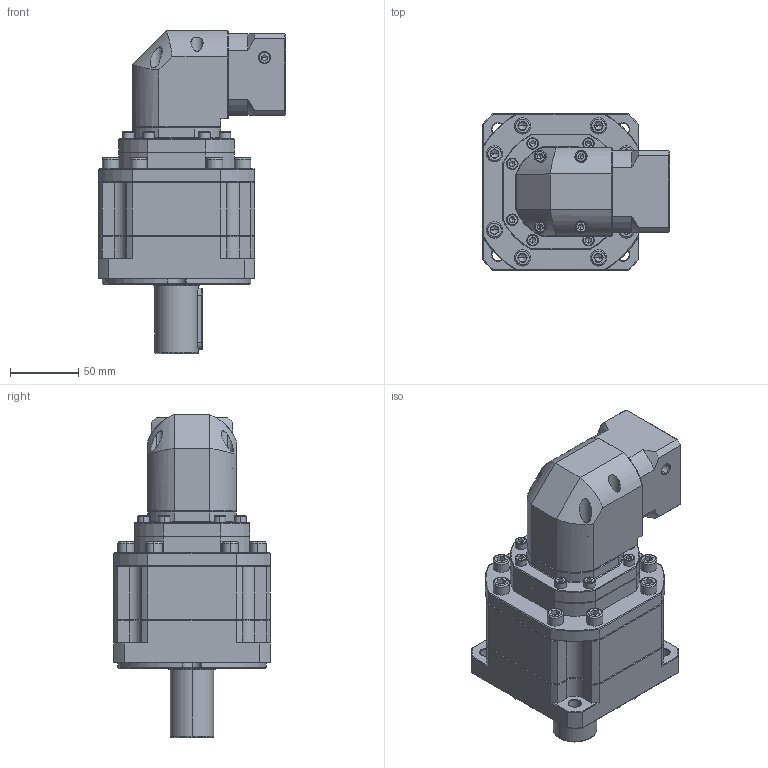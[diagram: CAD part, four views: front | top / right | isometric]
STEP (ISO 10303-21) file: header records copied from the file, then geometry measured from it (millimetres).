
FILE_DESCRIPTION (( 'STEP AP214' ), '1' );
FILE_NAME ('ZBR115A-D32-L3-P2-14-50-70-M5.step', '2023-08-26T14:07:11', ( '' ), ( '' ), 'SwSTEP 2.0', 'SolidWorks 2016', '' );
FILE_SCHEMA (( 'AUTOMOTIVE_DESIGN' ));
Length unit declared in the file: millimetre
Products named in the file (1): ZBR115A-D32-L3-P2-14-50-70-M5
Bounding box: 137.7 x 115 x 237.5 mm (x, y, z)
Volume: 1566893.4 mm3; surface area: 146137 mm2
Topology: 6 solids, 6 shells, 2637 faces, 6922 edges, 4405 vertices
Faces by surface type: plane 1299, cylinder 485, bspline 455, cone 390, torus 8
Entity records: 137205 total; most frequent: CARTESIAN_POINT 46854, ORIENTED_EDGE 13720, DIRECTION 11117, EDGE_CURVE 6860, VERTEX_POINT 4405, VECTOR 4365, LINE 4365, AXIS2_PLACEMENT_3D 3376
